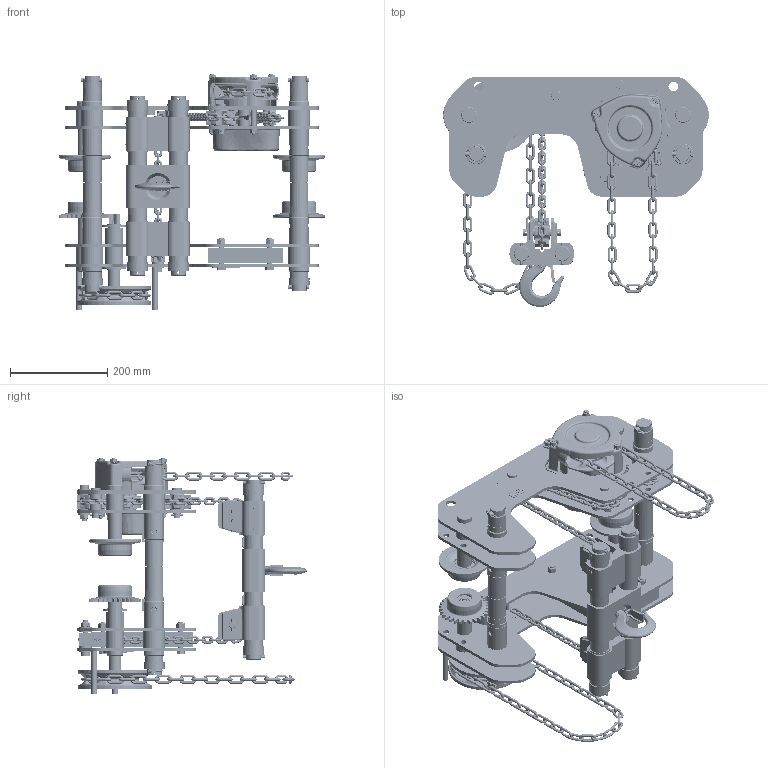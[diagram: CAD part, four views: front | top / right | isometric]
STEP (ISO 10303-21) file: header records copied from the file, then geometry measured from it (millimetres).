
FILE_DESCRIPTION (( 'STEP AP214' ), '1' );
FILE_NAME ('SHB010.STEP', '2026-08-12T17:20:36', ( '' ), ( '' ), 'SwSTEP 2.0', 'SolidWorks 2026', '' );
FILE_SCHEMA (( 'AUTOMOTIVE_DESIGN' ));
Length unit declared in the file: millimetre
Products named in the file (106): J1GR020-06302; 9016201_9016201; 72CG010-91263; 9093424_9093424; J1PS11-060045_J1PS11-040025; T3GA010-11011; HCCF005; 72CG010-91613; 72CG010-91083H; 9009412_9009412; 72CG010-91452; T3GA010-91011; HCCF005 FOR CF010; 80522; 72CG010-91433H; LCCF005; 72CG010-91051; C3BA005-91021; 72CG010-91112; M3102005; J1BA1-1006026_J1BA1-1006026; C3BA005-91042; M3101005; 72CG010-91342; 72CG010-51123H; M3021A010_Hook Only; 9012711_9012711; 72CG010-11494H; M3163005; MR2SHM10S9A7; 9012515_9012515; Rivit; J1SS000-00026_J1SS000-00026; T6GA010-91042; T6GA020-91172; HCCF005 FOR CF005; CF071010; 72CG010-91692; J1PW01-016010_J1PW01-016010; M3162005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
Assembly tree (408 placements, depth 5):
  SHB010
    74SH010-05102H_4.06" Flange
      72CG010-11494H
        72CG010-51123H
          72CG010-91031H  x2
          72CG010-91041H  x2
          72CG010-92011  x2
          72CG010-91051
          72CG010-91061  x2
          72CG010-91023H
          72CG010-91013H
          9012515_9012515  x2
        T3GA010-11021
          T3GA010-91021
          J1GR020-06302
          9047238_B27.7M - 3BM1-42
        T6GA010-91042  x2
        T5GA010-91231
        72BD010-94021H
        72CG010-91263
        T3GA010-11011
          T3GA010-91011
          J1GR020-06302
          9047238_B27.7M - 3BM1-42
        J1SS000-00015_J1SS000-00015  x2
        J1BA1-1006026_J1BA1-1006026  x4
        C2BA200-90741_C2BA200-90741  x4
        72CG010-91342
        9012522_9012522  x2
        J1SS000-00026_J1SS000-00026  x2
        J1NL001-10120_J1NL001-10120
        J1WB011-10120_J1WB011-10120
        J1PW01-030022_J1PW01-030022
        J1PW01-016010_J1PW01-016010
        C3BA005-90411
        C3BA005-90493_C3BA005-90493
        9010003_3107T41
        9012515_9012515  x2
        9016101_9014104
        9016201_9016201
      72CG010-11503H
        72CG010-51133H
          72CG010-91073H
          72CG010-91112  x4
          72CG010-91083H
          72CG010-91031H  x2
          72CG010-91041H  x2
          72CG010-92011  x2
          9012515_9012515  x2
        T3GA010-11021  x2
          T3GA010-91021
          J1GR020-06302
          9047238_B27.7M - 3BM1-42
        72CG010-91433H  x2
        J1PS11-040025_J1PS11-040025  x2
        T6GA010-91042  x2
        72CG010-91452
        E5FS005L-10511  x2
          E5FS005L-90512
        J1SS000-00015_J1SS000-00015  x2
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Bounding box: 545.94 x 471.96 x 485.05 mm (x, y, z)
Volume: 8248440.8 mm3; surface area: 2566319.7 mm2
Topology: 406 solids, 406 shells, 17748 faces, 45832 edges, 29038 vertices
Faces by surface type: plane 7109, cylinder 3752, bspline 3713, torus 1902, cone 988, sphere 284
Entity records: 783113 total; most frequent: CARTESIAN_POINT 464772, ORIENTED_EDGE 60076, DIRECTION 45712, EDGE_CURVE 30038, VERTEX_POINT 19375, VECTOR 16674, LINE 16674, AXIS2_PLACEMENT_3D 14519
